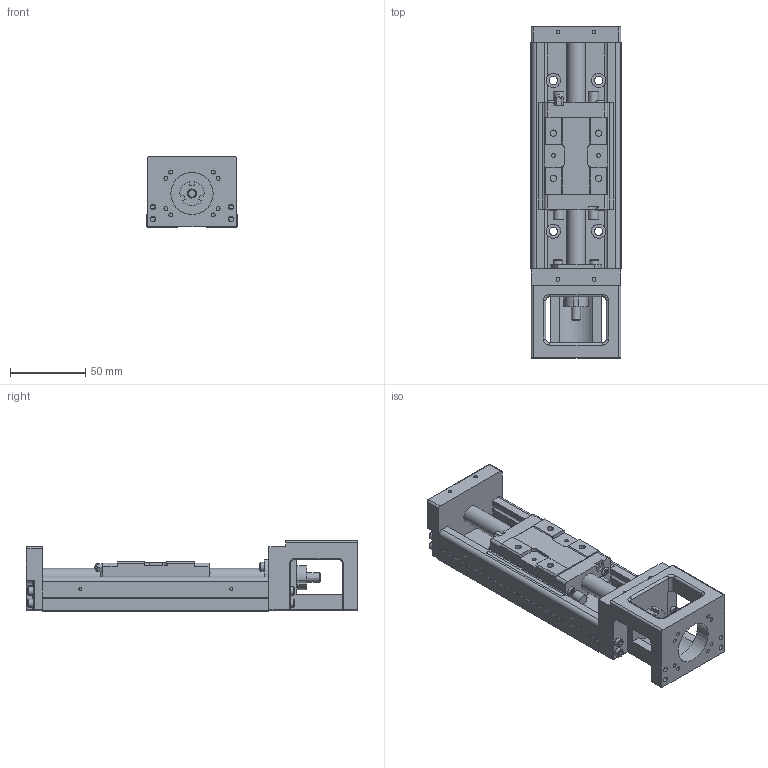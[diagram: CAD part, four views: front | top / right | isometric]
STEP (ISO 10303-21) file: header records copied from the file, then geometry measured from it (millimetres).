
FILE_DESCRIPTION(/* description */ (''),/* implementation_level */ '2;1');
FILE_NAME(/* name */ 'FKL60E60 05(10)C7.stp',/* time_stamp */ '2019-01-30T11:13:48+08:00',/* author */ (''),/* organization */ (''),/* preprocessor_version */ 'ST-DEVELOPER v16',/* originating_system */ 'SIEMENS PLM Software NX 10.0',/* authorisation */ '');
FILE_SCHEMA (('AUTOMOTIVE_DESIGN { 1 0 10303 214 3 1 1 1 }'));
Length unit declared in the file: millimetre
Products named in the file (3): 滑台.KK60.90-A1; 轨道.KK60-150; FKL60E60 05(10)C7
Assembly tree (2 placements, depth 2):
  FKL60E60 05(10)C7
    轨道.KK60-150
    滑台.KK60.90-A1
Bounding box: 60 x 220 x 47 mm (x, y, z)
Volume: 287273.2 mm3; surface area: 80421.4 mm2
Topology: 2 solids, 2 shells, 486 faces, 1243 edges, 806 vertices
Faces by surface type: plane 305, cylinder 137, torus 22, cone 13, sphere 9
Full cylindrical faces by diameter (mm): 2.05 x4, 2.5 x14, 3.3 x1, 3.5 x4, 4.2 x4, 5.5 x12, 6 x5, 7 x4, 9.5 x4, 11 x1, 12 x2, 28 x1
Entity records: 14222 total; most frequent: CARTESIAN_POINT 2418, DIRECTION 2406, ORIENTED_EDGE 2224, EDGE_CURVE 1112, AXIS2_PLACEMENT_3D 813, LINE 780, VECTOR 780, VERTEX_POINT 757
